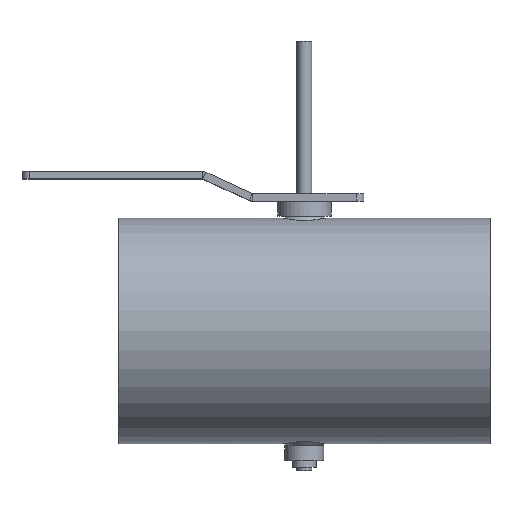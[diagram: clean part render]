
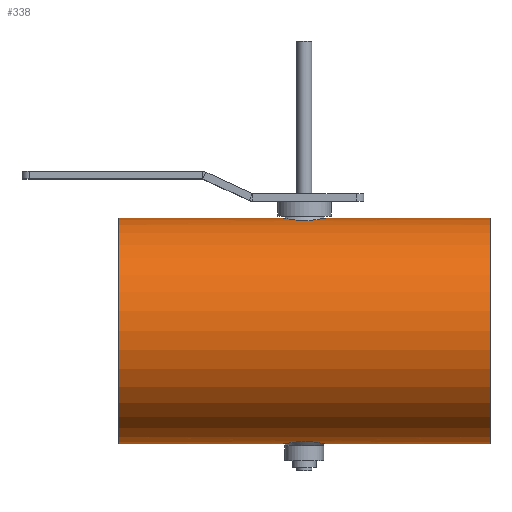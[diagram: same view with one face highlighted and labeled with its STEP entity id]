
A CAD part, top view. The second image highlights one B-rep face of the part: STEP entity #338.
In plain terms, the highlighted cylindrical face has radius 75.8 mm (diameter 151.6 mm), a full revolution.
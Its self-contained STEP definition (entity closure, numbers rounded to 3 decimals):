
#107=B_SPLINE_CURVE_WITH_KNOTS('',3,(#1904,#1905,#1906,#1907,#1908,#1909,
#1910,#1911,#1912,#1913,#1914,#1915,#1916,#1917,#1918,#1919,#1920,#1921,
#1922,#1923,#1924,#1925),.UNSPECIFIED.,.T.,.F.,(2,2,2,2,2,2,2,2,2,2,2,2,
2),(-0.062,0.,0.125,0.25,0.375,0.438,0.5,0.625,0.75,0.875,
0.938,1.,1.125),.UNSPECIFIED.);
#108=B_SPLINE_CURVE_WITH_KNOTS('',3,(#1927,#1928,#1929,#1930,#1931,#1932,
#1933,#1934,#1935,#1936,#1937,#1938,#1939,#1940,#1941,#1942,#1943,#1944,
#1945,#1946,#1947,#1948),.UNSPECIFIED.,.T.,.F.,(2,2,2,2,2,2,2,2,2,2,2,2,
2),(-0.125,0.,0.063,0.125,0.25,0.375,0.5,0.563,0.625,0.75,0.875,1.,1.063),
 .UNSPECIFIED.);
#278=CYLINDRICAL_SURFACE('',#1301,75.8);
#338=ADVANCED_FACE('',(#461,#462,#463,#464),#278,.T.);
#461=FACE_BOUND('',#603,.T.);
#462=FACE_BOUND('',#604,.T.);
#463=FACE_BOUND('',#605,.T.);
#464=FACE_BOUND('',#606,.T.);
#603=EDGE_LOOP('',(#851));
#604=EDGE_LOOP('',(#852));
#605=EDGE_LOOP('',(#853));
#606=EDGE_LOOP('',(#854));
#851=ORIENTED_EDGE('',*,*,#1105,.T.);
#852=ORIENTED_EDGE('',*,*,#1106,.T.);
#853=ORIENTED_EDGE('',*,*,#1101,.T.);
#854=ORIENTED_EDGE('',*,*,#1103,.T.);
#977=VERTEX_POINT('',#1895);
#979=VERTEX_POINT('',#1900);
#981=VERTEX_POINT('',#1926);
#982=VERTEX_POINT('',#1949);
#1101=EDGE_CURVE('',#977,#977,#1177,.T.);
#1103=EDGE_CURVE('',#979,#979,#1179,.T.);
#1105=EDGE_CURVE('',#981,#981,#107,.T.);
#1106=EDGE_CURVE('',#982,#982,#108,.T.);
#1177=CIRCLE('',#1295,75.8);
#1179=CIRCLE('',#1298,75.8);
#1295=AXIS2_PLACEMENT_3D('',#1894,#1582,#1583);
#1298=AXIS2_PLACEMENT_3D('',#1899,#1588,#1589);
#1301=AXIS2_PLACEMENT_3D('',#1950,#1594,#1595);
#1582=DIRECTION('',(-1.,0.,0.));
#1583=DIRECTION('',(0.,0.,1.));
#1588=DIRECTION('',(1.,0.,0.));
#1589=DIRECTION('',(0.,0.,-1.));
#1594=DIRECTION('',(1.,0.,0.));
#1595=DIRECTION('',(0.,0.,-1.));
#1894=CARTESIAN_POINT('',(125.,-33.3,125.));
#1895=CARTESIAN_POINT('',(125.,-33.3,200.8));
#1899=CARTESIAN_POINT('',(-125.,-33.3,125.));
#1900=CARTESIAN_POINT('',(-125.,-33.3,49.2));
#1904=CARTESIAN_POINT('',(-1.915,-107.469,109.347));
#1905=CARTESIAN_POINT('',(-7.562,-107.826,111.109));
#1906=CARTESIAN_POINT('',(-10.621,-108.374,113.968));
#1907=CARTESIAN_POINT('',(-14.122,-109.069,120.892));
#1908=CARTESIAN_POINT('',(-14.603,-109.195,125.036));
#1909=CARTESIAN_POINT('',(-12.852,-108.813,132.605));
#1910=CARTESIAN_POINT('',(-10.608,-108.314,136.114));
#1911=CARTESIAN_POINT('',(-5.817,-107.729,139.396));
#1912=CARTESIAN_POINT('',(-3.978,-107.568,140.164));
#1913=CARTESIAN_POINT('',(-0.112,-107.436,140.797));
#1914=CARTESIAN_POINT('',(1.892,-107.468,140.655));
#1915=CARTESIAN_POINT('',(7.524,-107.822,138.912));
#1916=CARTESIAN_POINT('',(10.597,-108.369,136.071));
#1917=CARTESIAN_POINT('',(14.133,-109.071,129.094));
#1918=CARTESIAN_POINT('',(14.606,-109.195,124.972));
#1919=CARTESIAN_POINT('',(12.847,-108.811,117.377));
#1920=CARTESIAN_POINT('',(10.591,-108.311,113.868));
#1921=CARTESIAN_POINT('',(5.799,-107.727,110.595));
#1922=CARTESIAN_POINT('',(3.94,-107.566,109.826));
#1923=CARTESIAN_POINT('',(0.102,-107.437,109.205));
#1924=CARTESIAN_POINT('',(-1.915,-107.469,109.347));
#1925=CARTESIAN_POINT('',(-7.562,-107.826,111.109));
#1926=CARTESIAN_POINT('',(-3.798,-107.588,109.935));
#1927=CARTESIAN_POINT('',(-7.563,41.226,111.109));
#1928=CARTESIAN_POINT('',(-1.915,40.869,109.347));
#1929=CARTESIAN_POINT('',(0.083,40.837,109.204));
#1930=CARTESIAN_POINT('',(3.931,40.966,109.822));
#1931=CARTESIAN_POINT('',(5.783,41.125,110.584));
#1932=CARTESIAN_POINT('',(10.614,41.714,113.883));
#1933=CARTESIAN_POINT('',(12.856,42.213,117.393));
#1934=CARTESIAN_POINT('',(14.607,42.596,124.998));
#1935=CARTESIAN_POINT('',(14.117,42.467,129.126));
#1936=CARTESIAN_POINT('',(10.611,41.772,136.043));
#1937=CARTESIAN_POINT('',(7.552,41.226,138.889));
#1938=CARTESIAN_POINT('',(1.943,40.87,140.647));
#1939=CARTESIAN_POINT('',(-0.037,40.836,140.8));
#1940=CARTESIAN_POINT('',(-3.935,40.965,140.18));
#1941=CARTESIAN_POINT('',(-5.777,41.125,139.417));
#1942=CARTESIAN_POINT('',(-10.595,41.711,136.134));
#1943=CARTESIAN_POINT('',(-12.844,42.211,132.638));
#1944=CARTESIAN_POINT('',(-14.61,42.596,125.007));
#1945=CARTESIAN_POINT('',(-14.139,42.472,120.921));
#1946=CARTESIAN_POINT('',(-10.599,41.769,113.927));
#1947=CARTESIAN_POINT('',(-7.563,41.226,111.109));
#1948=CARTESIAN_POINT('',(-1.915,40.869,109.347));
#1949=CARTESIAN_POINT('',(-3.798,40.988,109.935));
#1950=CARTESIAN_POINT('',(-125.,-33.3,125.));
